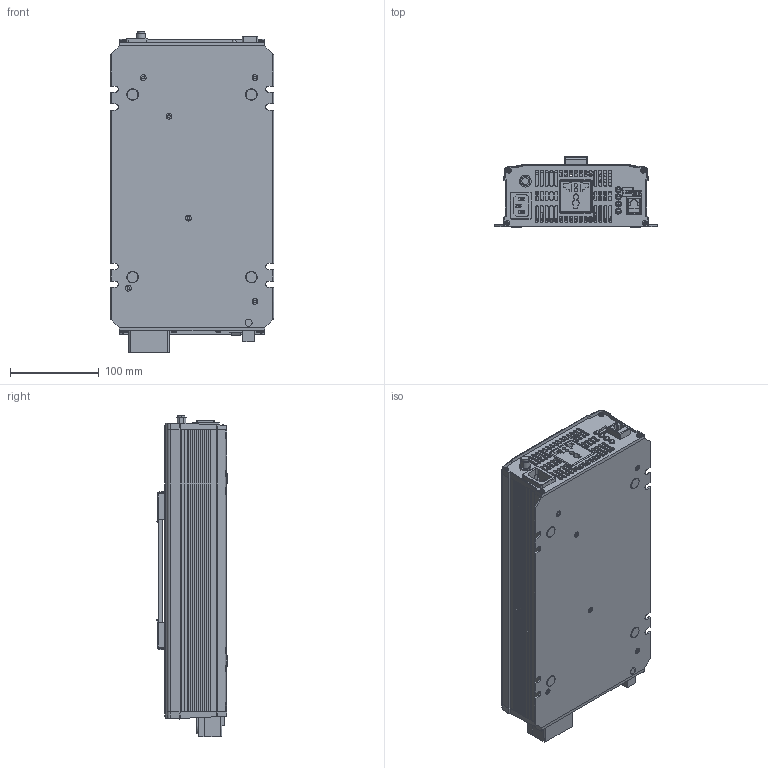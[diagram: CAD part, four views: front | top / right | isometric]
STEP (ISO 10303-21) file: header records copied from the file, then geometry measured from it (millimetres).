
FILE_DESCRIPTION(('Creo Elements/Direct Modeling STEP Export'),'2;1');
FILE_NAME('NTU-1200UN.stp','2021-07-01T11:51:17',(''),(''),'PTC Creo Elements/Direct Modeling STEP processor for AP214 (Solid Model)','PTC Creo Elements/Direct Modeling 19.0A 04-Oct-2014 (C) Parametric Technology GmbH','');
FILE_SCHEMA(('AUTOMOTIVE_DESIGN { 1 0 10303 214 1 1 1 1 }'));
Length unit declared in the file: millimetre
Products named in the file (117): 19-30286-1312__w__.1.1.1.1; 19-30286-1312__w__.1.1.1; 19-30286-1312__w__.1; 19-30286-1312__w__.1.1; 螺丝1; 19-30286-1312__w__.1.2; 19-30286-1312__w__.1.2.1; 19-30286-1312__w__.1.2.1.1; 19-30286-1312__w__.1.2.1.1.1; 螺丝1.1; 螺丝; 1xx3NTU-1200-I; PCBB; PCBA; PCBC; PCB; PCB-D; 9727R_PCB_ASM_ASM_ASM_16_ASM_1_.ASM; STANDARD_ASM_ASM_ASM_16_ASM_1_A.ASM; 拨码开关; E_1_PRT_16_1_1_5.PRT; E_PRT_16_1_1_5.PRT; LED_1_PRT_2_1_1_1_1_1_1_PRT_16_.PRT; P1.PRT; PHONE_JACK_1.PRT; 9727R_PCB.ASM; STANDARD.ASM; 9727R_PHII.ASM; DP1; 小卡装配; MOS15_5X10_1_1_1_1_1_1_1_1_1_2_.PRT.43; P3; MOSTO3P_1_1_PRT_16_1_1_5.PRT.41; MOSTO3P_1_1_PRT_16_1_1_5.PRT.40; BREAKER; MOSTO3P_1_1_PRT_16_1_1_5.PRT.42; 22; 33; AL_1_PRT_16_1_1_5.PRT; EE_2_PRT_16_1_1_5.PRT.22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
Assembly tree (135 placements, depth 8):
  NTU-1200
    1xx3NTU-1200CN-O
    万国插
    装配1
      INPUT
      1GG
        YS031W-074.1
        YS031W-074
        HS-SZ901
        CU-177  x2
        HS-659
          HS3_1_ASM_5.ASM
            HS3_5.PRT
            PIN_1_5.PRT
        HS-660
        33_PRT_16_1_1_5.PRT  x2
        HS-272B
      1HH
        1HH2NTU-1200A.1
        130x65
        THERMAL_PAD-2_5.PRT
        THERMAL_PAD-1_8.PRT
        SI_PRT_16_1_1_5.PRT
        SILICONE_PAD_5.PRT
        MYLAR_PRT_16_1_1_5.PRT
        MYLAR-2_5.PRT
        1HH2NTU-120019
      CASE
        PAD
          FOOT_PAD_7_1.PRT.30
          FOOT_PAD_7_1.PRT.31
          FOOT_PAD_7_1.PRT
          FOOT_PAD_7_1.PRT.29
        固纬把手
          174
          guwei1
          guwei1.1
        CASE上盖
        CASE下盖
          M3-7L_1_PRT_16_1_1_5.PRT.1
          M3-7L_1_PRT_16_1_1_5.PRT
          M3-7L_1_PRT_16_1_1_5.PRT.6
          M3-7L_1_PRT_16_1_1_5.PRT.5
          77_PRT_16_1_1_5.PRT
          M3-7L_1_PRT_16_1_1_5.PRT.7
          M3-7L_1_PRT_16_1_1_5.PRT.9
          CASE
      装配
        T_7.PRT
        A1_1_ASM_ASM_ASM_16_ASM_1_ASM_1.ASM
          A_ASM_PRT_16_1_1_5.PRT
          ALL_ASM_ASM_ASM_16_ASM_1_ASM_1_.ASM
            MHS-2_PRT_PRT_16_1_1_5.PRT
            PCB_5_ASM_ASM_ASM_16_ASM_1_ASM_.ASM
              A3_ASM_ASM_ASM_16_ASM_1_ASM_1_A.ASM
                _S___S_C_S_Y_S___X2_02C6_X0_O__.PRT
                _S_Y_S_Q_S___S___PRT_PRT_16_1_1.PRT
            _S___S_U_S_KX_ASM_ASM_ASM_16_AS.ASM
              _S___S_G_S_NA_S___S_H_X2_02DC__.PRT
            PCB2_ASM_ASM_ASM_16_ASM_1_ASM_1.ASM
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Bounding box: 184 x 79.45 x 363.06 mm (x, y, z)
Volume: 1007273.6 mm3; surface area: 879398.3 mm2
Topology: 97 solids, 97 shells, 3734 faces, 9705 edges, 6362 vertices
Faces by surface type: plane 2341, cylinder 902, cone 343, bspline 68, torus 54, sphere 24, extrusion 2
Entity records: 106074 total; most frequent: CARTESIAN_POINT 23659, ORIENTED_EDGE 16998, DIRECTION 15773, EDGE_CURVE 8485, VECTOR 5845, LINE 5843, VERTEX_POINT 5562, AXIS2_PLACEMENT_3D 4964
